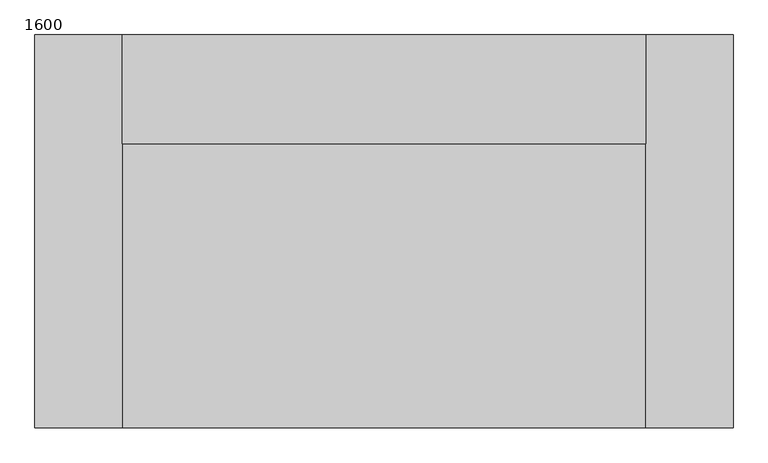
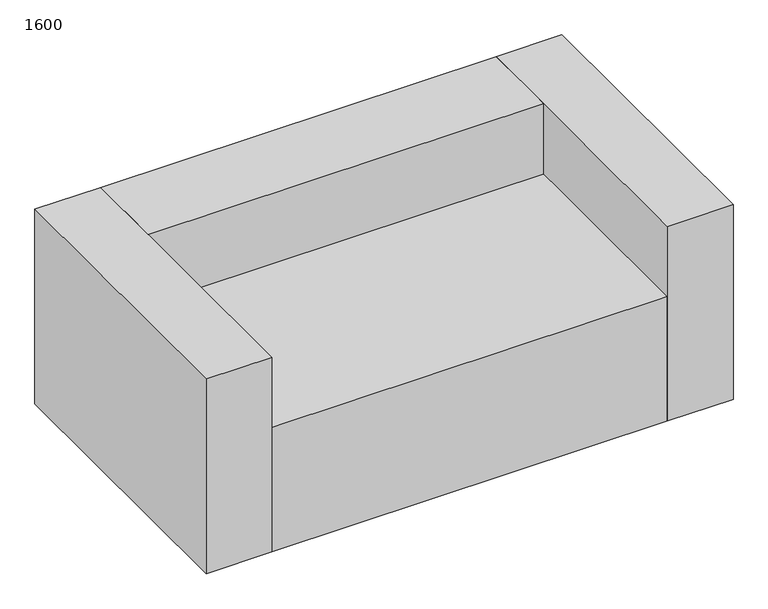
"""IFC4 building model written with IfcOpenShell, lengths in millimetres: furniture geometry, Fu_диван_LEG : 1600."""

from ifc_helpers import new_model, si_unit, origin, origin_with_axes, place, context, project, spatial, polyline, outline, extrude, source, transform, mapped, element, save


def furniture_1600_cdebd30f(model_context):
    return source(origin(), model_context, "Body", "SweptSolid", [
        extrude(outline(polyline([(1473.3737705, 916.7770492), (1473.3737705, 666.7770492), (273.3737705, 666.7770492), (273.3737705, 916.7770492), (1473.3737705, 916.7770492)])), origin_with_axes(), (0.0, 0.0, 1.0), 625.0),
        extrude(outline(polyline([(1673.3737705, 916.7770492), (1673.3737705, 16.7770492), (1473.3737705, 16.7770492), (1473.3737705, 916.7770492), (1673.3737705, 916.7770492)])), origin_with_axes(), (0.0, 0.0, 1.0), 625.0),
        extrude(outline(polyline([(273.3737705, 916.7770492), (273.3737705, 16.7770492), (73.3737705, 16.7770492), (73.3737705, 916.7770492), (273.3737705, 916.7770492)])), origin_with_axes(), (0.0, 0.0, 1.0), 625.0),
        extrude(outline(polyline([(1473.3737705, 16.7770492), (273.3737705, 16.7770492), (273.3737705, 666.7770492), (1473.3737705, 666.7770492), (1473.3737705, 16.7770492)])), origin_with_axes(), (0.0, 0.0, 1.0), 400.0),
    ])


if __name__ == "__main__":
    model = new_model("IFC4")
    model_context = context("Model", 3, world=origin())
    ifc_project = project(units=[si_unit("LENGTHUNIT", "METRE", prefix="MILLI")], contexts=[model_context])
    site = spatial("IfcSite", under=ifc_project)
    building = spatial("IfcBuilding", under=site)
    placement = place(None, origin())
    furniture_1600_shape = furniture_1600_cdebd30f(model_context)
    element("IfcFurniture", 1, ObjectType="Fu_диван_LEG : 1600", at=placement, inside=building, context=model_context, shape_type="MappedRepresentation", body=[
        mapped(furniture_1600_shape, transform((0.0, 0.0, 0.0), x_axis=(1.0, 0.0, 0.0), y_axis=(0.0, 1.0, 0.0), z_axis=(0.0, 0.0, 1.0))),
    ])
    save(model, "model.ifc")
